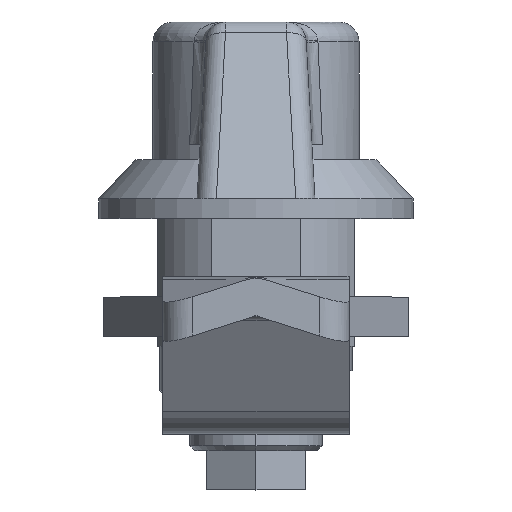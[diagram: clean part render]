
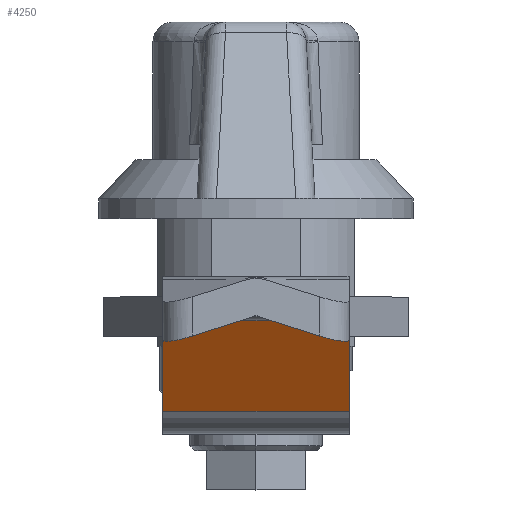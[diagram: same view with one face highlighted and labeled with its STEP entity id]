
A CAD part, top view. The second image highlights one B-rep face of the part: STEP entity #4250.
In plain terms, the highlighted planar face has unit normal (0, -0.532, 0.847) as drawn and (-0.847, -0.532, 0) by its records, which use the part's own axes.
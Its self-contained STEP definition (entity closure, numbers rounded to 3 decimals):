
#354 = DIRECTION ( 'NONE',  ( 0.532, -0.847, 0. ) ) ;
#451 = ORIENTED_EDGE ( 'NONE', *, *, #1371, .T. ) ;
#555 = CARTESIAN_POINT ( 'NONE',  ( -20.931, 2.34, 28.237 ) ) ;
#919 = CARTESIAN_POINT ( 'NONE',  ( -19.461, 0., -9.5 ) ) ;
#1371 = EDGE_CURVE ( 'NONE', #5845, #4632, #2526, .T. ) ;
#1410 = CARTESIAN_POINT ( 'NONE',  ( -26.706, 11.532, 9.5 ) ) ;
#1538 = CARTESIAN_POINT ( 'NONE',  ( -20.931, 2.34, 9.5 ) ) ;
#1813 = VECTOR ( 'NONE', #4787, 1000. ) ;
#1905 = DIRECTION ( 'NONE',  ( 0., 0., -1. ) ) ;
#2112 = EDGE_CURVE ( 'NONE', #3503, #5845, #3684, .T. ) ;
#2126 = VERTEX_POINT ( 'NONE', #1410 ) ;
#2131 = VECTOR ( 'NONE', #354, 1000. ) ;
#2249 = PLANE ( 'NONE',  #4308 ) ;
#2504 = ORIENTED_EDGE ( 'NONE', *, *, #5646, .F. ) ;
#2526 = LINE ( 'NONE', #555, #1813 ) ;
#2902 = CARTESIAN_POINT ( 'NONE',  ( -26.706, 11.532, -9.5 ) ) ;
#2962 = VECTOR ( 'NONE', #3753, 1000. ) ;
#3423 = EDGE_CURVE ( 'NONE', #2126, #3503, #4229, .T. ) ;
#3503 = VERTEX_POINT ( 'NONE', #2902 ) ;
#3668 = DIRECTION ( 'NONE',  ( 0.847, 0.532, 0. ) ) ;
#3684 = LINE ( 'NONE', #919, #2131 ) ;
#3753 = DIRECTION ( 'NONE',  ( 0.532, -0.847, 0. ) ) ;
#3853 = ORIENTED_EDGE ( 'NONE', *, *, #3423, .T. ) ;
#3871 = CARTESIAN_POINT ( 'NONE',  ( -20.931, 2.34, -9.5 ) ) ;
#4121 = CARTESIAN_POINT ( 'NONE',  ( -19.461, 0., 28.237 ) ) ;
#4229 = LINE ( 'NONE', #5548, #4882 ) ;
#4250 = ADVANCED_FACE ( 'NONE', ( #4569 ), #2249, .F. ) ;
#4308 = AXIS2_PLACEMENT_3D ( 'NONE', #4121, #3668, #5531 ) ;
#4375 = EDGE_LOOP ( 'NONE', ( #2504, #3853, #5608, #451 ) ) ;
#4569 = FACE_OUTER_BOUND ( 'NONE', #4375, .T. ) ;
#4632 = VERTEX_POINT ( 'NONE', #1538 ) ;
#4778 = CARTESIAN_POINT ( 'NONE',  ( -19.461, 0., 9.5 ) ) ;
#4787 = DIRECTION ( 'NONE',  ( 0., 0., 1. ) ) ;
#4882 = VECTOR ( 'NONE', #1905, 1000. ) ;
#5531 = DIRECTION ( 'NONE',  ( -0.532, 0.847, 0. ) ) ;
#5548 = CARTESIAN_POINT ( 'NONE',  ( -26.706, 11.532, -9.5 ) ) ;
#5586 = LINE ( 'NONE', #4778, #2962 ) ;
#5608 = ORIENTED_EDGE ( 'NONE', *, *, #2112, .T. ) ;
#5646 = EDGE_CURVE ( 'NONE', #2126, #4632, #5586, .T. ) ;
#5845 = VERTEX_POINT ( 'NONE', #3871 ) ;
